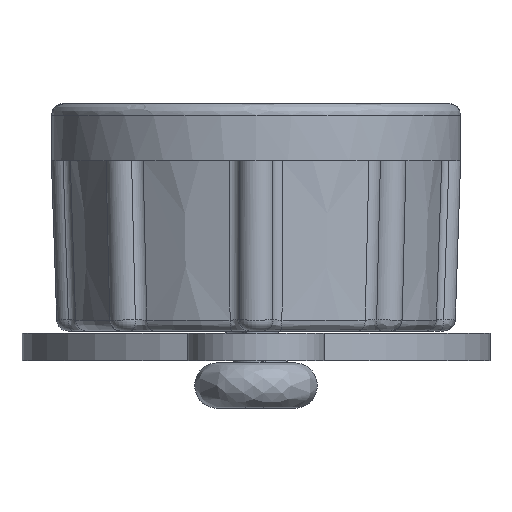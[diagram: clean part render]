
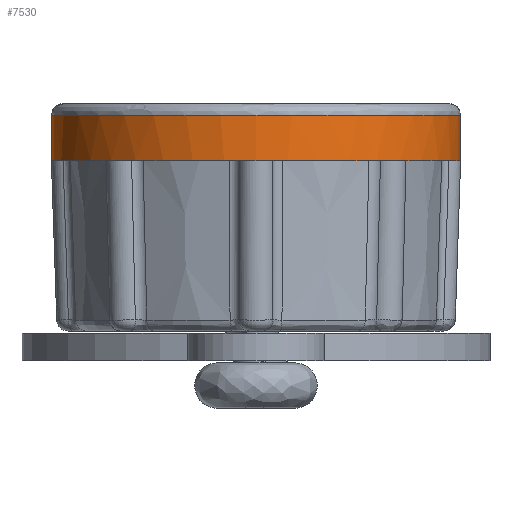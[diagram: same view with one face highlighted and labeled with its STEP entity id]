
A CAD part, left-side view. The second image highlights one B-rep face of the part: STEP entity #7530.
In plain terms, the highlighted cylindrical face has radius 9 mm (diameter 18 mm), a partial arc.
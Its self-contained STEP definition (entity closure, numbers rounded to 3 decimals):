
#2 = VERTEX_POINT ( 'NONE', #6564 ) ;
#147 = CARTESIAN_POINT ( 'NONE',  ( 0., -9., -0.5 ) ) ;
#172 = VECTOR ( 'NONE', #3020, 1000. ) ;
#184 = ORIENTED_EDGE ( 'NONE', *, *, #2564, .T. ) ;
#252 = FACE_OUTER_BOUND ( 'NONE', #5735, .T. ) ;
#263 = CIRCLE ( 'NONE', #6507, 9. ) ;
#515 = EDGE_CURVE ( 'NONE', #5300, #2, #3634, .T. ) ;
#716 = CARTESIAN_POINT ( 'NONE',  ( 0., 0., -2.5 ) ) ;
#779 = DIRECTION ( 'NONE',  ( -1., 0., 0. ) ) ;
#907 = AXIS2_PLACEMENT_3D ( 'NONE', #4836, #7123, #5914 ) ;
#1158 = CIRCLE ( 'NONE', #907, 9. ) ;
#1160 = ORIENTED_EDGE ( 'NONE', *, *, #5108, .T. ) ;
#1314 = ORIENTED_EDGE ( 'NONE', *, *, #515, .T. ) ;
#1381 = DIRECTION ( 'NONE',  ( 0., 0., -1. ) ) ;
#1474 = VERTEX_POINT ( 'NONE', #1995 ) ;
#1541 = AXIS2_PLACEMENT_3D ( 'NONE', #2680, #1381, #779 ) ;
#1659 = VERTEX_POINT ( 'NONE', #147 ) ;
#1705 = ORIENTED_EDGE ( 'NONE', *, *, #3886, .T. ) ;
#1805 = DIRECTION ( 'NONE',  ( -1., 0., 0. ) ) ;
#1995 = CARTESIAN_POINT ( 'NONE',  ( -6.364, 6.364, -2.5 ) ) ;
#2353 = DIRECTION ( 'NONE',  ( 0., 0., 1. ) ) ;
#2419 = LINE ( 'NONE', #7903, #3869 ) ;
#2564 = EDGE_CURVE ( 'NONE', #4413, #5592, #6040, .T. ) ;
#2680 = CARTESIAN_POINT ( 'NONE',  ( 0., 0., -0.46 ) ) ;
#3020 = DIRECTION ( 'NONE',  ( 0., 0., -1. ) ) ;
#3634 = LINE ( 'NONE', #7349, #172 ) ;
#3813 = CIRCLE ( 'NONE', #4840, 9. ) ;
#3869 = VECTOR ( 'NONE', #4194, 1000. ) ;
#3886 = EDGE_CURVE ( 'NONE', #5127, #1659, #2419, .T. ) ;
#4133 = DIRECTION ( 'NONE',  ( 0., 0., 1. ) ) ;
#4194 = DIRECTION ( 'NONE',  ( 0., 0., 1. ) ) ;
#4413 = VERTEX_POINT ( 'NONE', #6101 ) ;
#4494 = CARTESIAN_POINT ( 'NONE',  ( 0., 9., -0.5 ) ) ;
#4519 = EDGE_CURVE ( 'NONE', #5592, #5127, #7013, .T. ) ;
#4687 = CARTESIAN_POINT ( 'NONE',  ( 0., 0., -2.5 ) ) ;
#4726 = DIRECTION ( 'NONE',  ( -1., 0., 0. ) ) ;
#4836 = CARTESIAN_POINT ( 'NONE',  ( 0., 0., -0.5 ) ) ;
#4840 = AXIS2_PLACEMENT_3D ( 'NONE', #7056, #4133, #7881 ) ;
#4982 = DIRECTION ( 'NONE',  ( -1., 0., 0. ) ) ;
#5023 = DIRECTION ( 'NONE',  ( 0., 0., 1. ) ) ;
#5108 = EDGE_CURVE ( 'NONE', #2, #1474, #263, .T. ) ;
#5127 = VERTEX_POINT ( 'NONE', #7453 ) ;
#5300 = VERTEX_POINT ( 'NONE', #4494 ) ;
#5399 = ORIENTED_EDGE ( 'NONE', *, *, #4519, .T. ) ;
#5579 = EDGE_CURVE ( 'NONE', #5300, #1659, #1158, .T. ) ;
#5592 = VERTEX_POINT ( 'NONE', #7765 ) ;
#5720 = CYLINDRICAL_SURFACE ( 'NONE', #1541, 9. ) ;
#5735 = EDGE_LOOP ( 'NONE', ( #1705, #7132, #1314, #1160, #7819, #184, #5399 ) ) ;
#5914 = DIRECTION ( 'NONE',  ( 0.007, 1., 0. ) ) ;
#6040 = CIRCLE ( 'NONE', #6429, 9. ) ;
#6101 = CARTESIAN_POINT ( 'NONE',  ( -9., 0., -2.5 ) ) ;
#6113 = EDGE_CURVE ( 'NONE', #1474, #4413, #3813, .T. ) ;
#6429 = AXIS2_PLACEMENT_3D ( 'NONE', #716, #5023, #4982 ) ;
#6507 = AXIS2_PLACEMENT_3D ( 'NONE', #4687, #2353, #4726 ) ;
#6564 = CARTESIAN_POINT ( 'NONE',  ( 0., 9., -2.5 ) ) ;
#6641 = DIRECTION ( 'NONE',  ( 0., 0., 1. ) ) ;
#6646 = AXIS2_PLACEMENT_3D ( 'NONE', #7242, #6641, #1805 ) ;
#7013 = CIRCLE ( 'NONE', #6646, 9. ) ;
#7056 = CARTESIAN_POINT ( 'NONE',  ( 0., 0., -2.5 ) ) ;
#7123 = DIRECTION ( 'NONE',  ( 0., 0., 1. ) ) ;
#7132 = ORIENTED_EDGE ( 'NONE', *, *, #5579, .F. ) ;
#7242 = CARTESIAN_POINT ( 'NONE',  ( 0., 0., -2.5 ) ) ;
#7349 = CARTESIAN_POINT ( 'NONE',  ( 0., 9., -0.46 ) ) ;
#7453 = CARTESIAN_POINT ( 'NONE',  ( 0., -9., -2.5 ) ) ;
#7530 = ADVANCED_FACE ( 'NONE', ( #252 ), #5720, .T. ) ;
#7765 = CARTESIAN_POINT ( 'NONE',  ( -6.364, -6.364, -2.5 ) ) ;
#7819 = ORIENTED_EDGE ( 'NONE', *, *, #6113, .T. ) ;
#7881 = DIRECTION ( 'NONE',  ( -1., 0., 0. ) ) ;
#7903 = CARTESIAN_POINT ( 'NONE',  ( 0., -9., -0.46 ) ) ;
